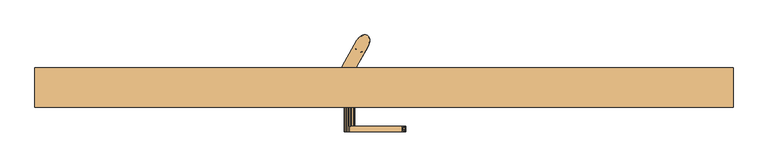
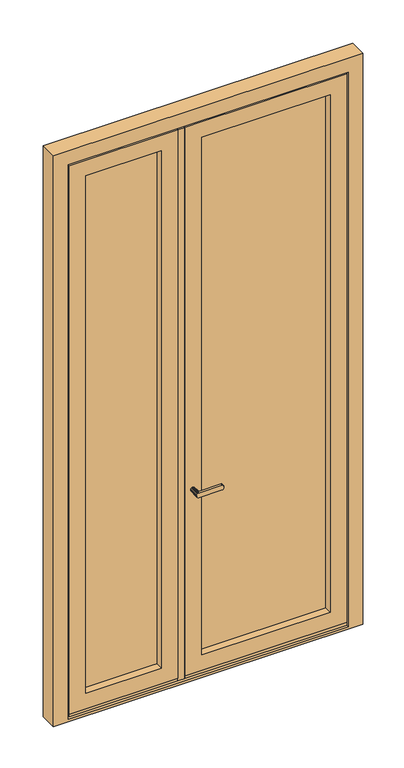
"""IFC4 building model written with IfcOpenShell, lengths in millimetres: door geometry, RDC Tierce."""

import ifcopenshell
import ifcopenshell.guid

model = None  # the IFC model being written
_history = None  # IfcOwnerHistory: only IFC2X3 demands one
_inside = {}  # id of a spatial element -> (the spatial element, [elements in it])
_under = {}  # id of a project, library or spatial element -> (it, [spatial elements below it])
_declared = {}  # id of a project -> (the project, [libraries it declares])
_typed = {}  # id of a type object -> (the type object, [elements of that type])
_made_of = {}  # id of a material, layer set ... -> (it, [elements and type objects made of it])


def new_model(schema):
    """Start an empty IFC model of exactly this schema.

    Asked for "IFC4X3", IfcOpenShell would pick the latest addendum, in which some entities
    have other attributes; the version numbers below select the first issue.
    IFC2X3 requires an IfcOwnerHistory on every rooted entity: one is made here for all.
    """
    global model, _history
    if schema == "IFC4X3":
        model = ifcopenshell.file(schema_version=(4, 3, 0, 0))
    else:
        model = ifcopenshell.file(schema=schema)
    _inside.clear()
    _under.clear()
    _declared.clear()
    _typed.clear()
    _made_of.clear()
    _history = None
    if model.schema == "IFC2X3":
        org = make("IfcOrganization", Name="unknown")
        user = make(
            "IfcPersonAndOrganization",
            ThePerson=make("IfcPerson", FamilyName="unknown"),
            TheOrganization=org,
        )
        app = make(
            "IfcApplication",
            ApplicationDeveloper=org,
            Version="unknown",
            ApplicationFullName="unknown",
            ApplicationIdentifier="unknown",
        )
        _history = make(
            "IfcOwnerHistory",
            OwningUser=user,
            OwningApplication=app,
            ChangeAction="ADDED",
            CreationDate=0,
        )
    return model


def make(cls, **values):
    """One entity of the class cls with the attributes given. An attribute that is None is left unset."""
    return model.create_entity(
        cls, **{name: value for name, value in values.items() if value is not None}
    )


def rooted(cls, **values):
    """An entity with a GlobalId (a new one), such as an element, a storey or a relation."""
    return make(cls, GlobalId=ifcopenshell.guid.new(), OwnerHistory=_history, **values)


def si_unit(unit_type, name, prefix=None):
    """IfcSIUnit, for example si_unit("LENGTHUNIT", "METRE", prefix="MILLI")."""
    return make("IfcSIUnit", UnitType=unit_type, Prefix=prefix, Name=name)


def assignment(units):
    """IfcUnitAssignment: the units of a project."""
    return None if units is None else make("IfcUnitAssignment", Units=units)


def point(xyz):
    """IfcCartesianPoint."""
    return None if xyz is None else make("IfcCartesianPoint", Coordinates=xyz)


def direction(xyz):
    """IfcDirection."""
    return None if xyz is None else make("IfcDirection", DirectionRatios=xyz)


def frame(location, z_axis=None, x_axis=None):
    """IfcAxis2Placement3D, a coordinate frame: its origin and axes. An axis left out is left unset."""
    return make(
        "IfcAxis2Placement3D",
        Location=point(location),
        Axis=direction(z_axis),
        RefDirection=direction(x_axis),
    )


def origin():
    """The frame at (0, 0, 0) with its axes left unset."""
    return frame((0.0, 0.0, 0.0))


def place(relative_to, where):
    """IfcLocalPlacement: puts the frame where relative to a parent placement (None: the world)."""
    return make(
        "IfcLocalPlacement", PlacementRelTo=relative_to, RelativePlacement=where
    )


def context(
    kind, dimensions, precision=None, world=None, true_north=None, identifier=None
):
    """IfcGeometricRepresentationContext, for example the 3D "Model" context."""
    return make(
        "IfcGeometricRepresentationContext",
        ContextIdentifier=identifier,
        ContextType=kind,
        CoordinateSpaceDimension=dimensions,
        Precision=precision,
        WorldCoordinateSystem=world,
        TrueNorth=true_north,
    )


def project(units=None, contexts=None):
    """IfcProject with its units and contexts."""
    return rooted(
        "IfcProject",
        Name="project",
        RepresentationContexts=contexts,
        UnitsInContext=assignment(units),
    )


def spatial(cls, under=None, at=None, **own):
    """A site, building, storey or space (cls), placed at a placement, below another one or the project."""
    s = rooted(cls, ObjectPlacement=at, **own)
    if under is not None:
        _under.setdefault(under.id(), (under, []))[1].append(s)
    return s


def polyline(points):
    """IfcPolyline through the points."""
    return make("IfcPolyline", Points=[point(p) for p in points])


def outline(outer, holes=None, kind="AREA"):
    """IfcArbitraryClosedProfileDef: a profile drawn as a closed curve; with holes, ...WithVoids."""
    if holes is None:
        return make("IfcArbitraryClosedProfileDef", ProfileType=kind, OuterCurve=outer)
    return make(
        "IfcArbitraryProfileDefWithVoids",
        ProfileType=kind,
        OuterCurve=outer,
        InnerCurves=holes,
    )


def extrude(swept, where, along, depth):
    """IfcExtrudedAreaSolid: the profile swept, set in the frame where, extruded along a direction by depth."""
    return make(
        "IfcExtrudedAreaSolid",
        SweptArea=swept,
        Position=where,
        ExtrudedDirection=direction(along),
        Depth=depth,
    )


def faces_of(points, faces, orient=None, outer=None):
    """IfcFace entities. A face is a list of loops; a loop is a list of indices into points, from 0.

    orient and outer hold one flag for each loop. By default every Orientation is true, the
    first loop of a face is its IfcFaceOuterBound and the others are IfcFaceBound.
    """
    made = []
    for i, loops in enumerate(faces):
        bounds = []
        for j, loop in enumerate(loops):
            is_outer = j == 0 if outer is None else outer[i][j]
            bounds.append(
                make(
                    "IfcFaceOuterBound" if is_outer else "IfcFaceBound",
                    Bound=make("IfcPolyLoop", Polygon=[points[k] for k in loop]),
                    Orientation=True if orient is None else orient[i][j],
                )
            )
        made.append(make("IfcFace", Bounds=bounds))
    return made


def faceted_brep(points, faces, orient=None, outer=None, voids=None):
    """IfcFacetedBrep: a solid bounded by flat faces; with voids (closed shells), ...WithVoids."""
    shared = [point(p) for p in points]
    hull = make("IfcClosedShell", CfsFaces=faces_of(shared, faces, orient, outer))
    if voids is None:
        return make("IfcFacetedBrep", Outer=hull)
    return make(
        "IfcFacetedBrepWithVoids",
        Outer=hull,
        Voids=[
            make(cls, CfsFaces=faces_of(shared, fs, o, b)) for cls, fs, o, b in voids
        ],
    )


def shape(context_of_items, identifier, shape_type, items):
    """IfcShapeRepresentation: the items that make up one representation, for example the "Body"."""
    return make(
        "IfcShapeRepresentation",
        ContextOfItems=context_of_items,
        RepresentationIdentifier=identifier,
        RepresentationType=shape_type,
        Items=items,
    )


def source(mapping_origin, context_of_items, identifier, shape_type, items):
    """IfcRepresentationMap: a shape defined once, which mapped items show again and again."""
    return make(
        "IfcRepresentationMap",
        MappingOrigin=mapping_origin,
        MappedRepresentation=shape(context_of_items, identifier, shape_type, items),
    )


def transform(
    local_origin,
    x_axis=None,
    y_axis=None,
    z_axis=None,
    scale=None,
    scale2=None,
    scale3=None,
    uniform=True,
):
    """IfcCartesianTransformationOperator3D, or its non-uniform kind. x_axis, y_axis, z_axis: its Axis1, 2, 3."""
    if uniform:
        return make(
            "IfcCartesianTransformationOperator3D",
            Axis1=direction(x_axis),
            Axis2=direction(y_axis),
            LocalOrigin=point(local_origin),
            Scale=scale,
            Axis3=direction(z_axis),
        )
    return make(
        "IfcCartesianTransformationOperator3DnonUniform",
        Axis1=direction(x_axis),
        Axis2=direction(y_axis),
        LocalOrigin=point(local_origin),
        Scale=scale,
        Axis3=direction(z_axis),
        Scale2=scale2,
        Scale3=scale3,
    )


def mapped(mapping_source, mapping_target):
    """IfcMappedItem: shows the shape of a source again, moved by a transform."""
    return make(
        "IfcMappedItem", MappingSource=mapping_source, MappingTarget=mapping_target
    )


def made_of(thing, what):
    """Note that an element or type object is made of a material, layer set ...; save() writes the relation."""
    if what is not None:
        _made_of.setdefault(what.id(), (what, []))[1].append(thing)
    return thing


def element(
    cls,
    number,
    at=None,
    inside=None,
    cuts=None,
    type_object=None,
    material=None,
    context=None,
    identifier="Body",
    shape_type=None,
    held_by="IfcProductDefinitionShape",
    body=None,
    shapes=None,
    **own,
):
    """One element of the class cls, such as IfcWall. Its Tag is "e" and its number.

    at: its placement. inside: the storey or other place that contains it. cuts: it is an
    opening in that element (IfcRelVoidsElement). A single representation is given by context,
    identifier, shape_type and body (its items); several are given by shapes. held_by: the class
    of the entity that holds the representations. save() writes the other relations.
    """
    e = rooted(cls, Tag="e%d" % number, ObjectPlacement=at, **own)
    if body is not None:
        shapes = [shape(context, identifier, shape_type, body)]
    if shapes is not None:
        e.Representation = make(held_by, Representations=shapes)
    if inside is not None:
        _inside.setdefault(inside.id(), (inside, []))[1].append(e)
    if cuts is not None:
        rooted(
            "IfcRelVoidsElement", RelatingBuildingElement=cuts, RelatedOpeningElement=e
        )
    if type_object is not None:
        _typed.setdefault(type_object.id(), (type_object, []))[1].append(e)
    return made_of(e, material)


def aggregate(whole, parts):
    """IfcRelAggregates: a whole, such as a stair, and the parts it consists of."""
    return rooted("IfcRelAggregates", RelatingObject=whole, RelatedObjects=parts)


def save(model, path):
    """Write the relations noted so far, then the file.

    IfcRelAggregates (storeys below a building ...), IfcRelContainedInSpatialStructure (elements
    in a storey), IfcRelDefinesByType, IfcRelAssociatesMaterial and IfcRelDeclares: one each for
    every whole, place, type object, material and project.
    """
    for whole, parts in _under.values():
        aggregate(whole, parts)
    for where, things in _inside.values():
        rooted(
            "IfcRelContainedInSpatialStructure",
            RelatedElements=things,
            RelatingStructure=where,
        )
    for kind, things in _typed.values():
        rooted("IfcRelDefinesByType", RelatedObjects=things, RelatingType=kind)
    for what, things in _made_of.values():
        rooted("IfcRelAssociatesMaterial", RelatedObjects=things, RelatingMaterial=what)
    for by, libraries in _declared.values():
        rooted("IfcRelDeclares", RelatingContext=by, RelatedDefinitions=libraries)
    model.write(path)


def door_cee4cb2a(model_context):
    return source(origin(), model_context, "Body", "SolidModel", [
        faceted_brep([(739.0136755, -13.0, 243.5), (739.0136755, -9.0, 243.5), (705.1014746, -9.0, 243.5), (705.1014746, -13.0, 243.5), (739.0136755, -9.0, 213.5), (705.1014746, -9.0, 213.5), (739.0136755, -13.0, 209.5), (739.0136755, -9.0, 209.5), (705.1014746, -13.0, 209.5), (705.1014746, -9.0, 209.5), (765.3965699, 59.5301271, 213.5), (762.837333, 61.6325794, 213.5), (759.7369376, 62.7977182, 213.5), (756.2508505, 62.9671186, 213.5), (752.5538788, 62.1322861, 213.5), (748.8314041, 60.3350828, 213.5), (745.2700867, 57.6656279, 213.5), (742.0485062, 54.2577791, 213.5), (739.3282059, 50.2824201, 213.5), (764.7623607, 35.5980002, 213.5), (766.8449742, 39.9415279, 213.5), (768.1854694, 44.4354221, 213.5), (768.7166281, 48.8543403, 213.5), (768.411816, 52.9766994, 213.5), (767.2863175, 56.5957871, 213.5), (739.3282059, 50.2824201, 209.5), (742.0485062, 54.2577791, 209.5), (745.2700867, 57.6656279, 209.5), (748.8314041, 60.3350828, 209.5), (752.5538788, 62.1322861, 209.5), (756.2508505, 62.9671186, 209.5), (759.7369376, 62.7977182, 209.5), (762.837333, 61.6325794, 209.5), (765.3965699, 59.5301271, 209.5), (767.2863175, 56.5957871, 209.5), (768.411816, 52.9766994, 209.5), (768.7166281, 48.8543403, 209.5), (768.1854694, 44.4354221, 209.5), (766.8449742, 39.9415279, 209.5), (764.7623607, 35.5980002, 209.5), (739.3282059, 50.2824201, 211.9099144), (764.7623607, 35.5980002, 211.0900849), (766.431904, 58.1586471, 211.5), (754.4172803, 62.6737832, 211.5), (768.7021328, 48.4468941, 211.5)], [[[0, 1, 2, 3]], [[4, 5, 2, 1]], [[6, 7, 4, 1, 0]], [[8, 6, 0, 3]], [[9, 8, 3, 2, 5]], [[10, 11, 12, 13, 14, 15, 16, 17, 18, 5, 4, 19, 20, 21, 22, 23, 24]], [[6, 8, 9, 25, 26, 27, 28, 29, 30, 31, 32, 33, 34, 35, 36, 37, 38, 39, 7]], [[9, 5, 18, 40, 25]], [[7, 39, 41, 19, 4]], [[40, 18, 17]], [[26, 25, 40]], [[24, 42, 10]], [[43, 27, 40]], [[40, 27, 26]], [[43, 30, 29]], [[15, 43, 16]], [[13, 43, 14]], [[32, 31, 43]], [[41, 39, 38]], [[20, 19, 41]], [[28, 43, 29]], [[17, 16, 40]], [[31, 30, 43]], [[35, 34, 42]], [[28, 27, 43]], [[20, 41, 44]], [[15, 14, 43]], [[13, 12, 43]], [[40, 16, 43]], [[11, 43, 12]], [[32, 43, 42]], [[34, 33, 42]], [[35, 44, 36]], [[38, 37, 41]], [[37, 44, 41]], [[36, 44, 37]], [[44, 21, 20]], [[42, 43, 11]], [[32, 42, 33]], [[42, 11, 10]], [[23, 42, 24]], [[44, 42, 23]], [[35, 42, 44]], [[23, 22, 44]], [[22, 21, 44]]]),
        faceted_brep([(713.5803329, -103.0, 1208.4772421), (716.0632597, -103.0, 1210.3824588), (718.9546891, -103.0, 1211.5801281), (722.0575751, -103.0, 1211.9886308), (725.160461, -103.0, 1211.5801281), (728.0518905, -103.0, 1210.3824588), (730.5348172, -103.0, 1208.4772421), (732.4400339, -103.0, 1205.9943154), (733.6377032, -103.0, 1203.102886), (734.0462059, -103.0, 1200.0), (733.6377032, -103.0, 1196.897114), (732.4400339, -103.0, 1194.0056846), (730.5348172, -103.0, 1191.5227579), (728.0518905, -103.0, 1189.6175412), (725.160461, -103.0, 1188.4198719), (722.0575751, -103.0, 1188.0113692), (718.9546891, -103.0, 1188.4198719), (716.0632597, -103.0, 1189.6175412), (713.5803329, -103.0, 1191.5227579), (711.6751162, -103.0, 1194.0056846), (710.4774469, -103.0, 1196.897114), (710.0689443, -103.0, 1200.0), (710.4774469, -103.0, 1203.102886), (711.6751162, -103.0, 1205.9943154), (725.160461, -146.4998825, 1188.4198719), (722.0575751, -146.4998825, 1188.0113692), (728.0518905, -146.4998825, 1189.6175412), (732.4400339, -146.4998825, 1194.0056846), (730.5348172, -146.4998825, 1191.5227579), (733.6377032, -146.4998825, 1196.897114), (734.0462059, -146.4998825, 1200.0), (733.6377032, -146.4998825, 1203.102886), (732.4400339, -146.4998825, 1205.9943154), (728.0518905, -146.4998825, 1210.3824588), (730.5348172, -146.4998825, 1208.4772421), (725.160461, -146.4998825, 1211.5801281), (722.0575751, -146.4998825, 1211.9886308), (718.9546891, -158.9999695, 1211.5801281), (722.0575751, -158.9999695, 1211.9886308), (716.0632597, -158.9999695, 1210.3824588), (711.6751162, -158.9999695, 1205.9943154), (713.5803329, -158.9999695, 1208.4772421), (710.4774469, -158.9999695, 1203.102886), (710.0689443, -158.9999695, 1200.0), (710.4774469, -158.9999695, 1196.897114), (711.6751162, -158.9999695, 1194.0056846), (716.0632597, -158.9999695, 1189.6175412), (713.5803329, -158.9999695, 1191.5227579), (718.9546891, -158.9999695, 1188.4198719), (722.0575751, -158.9999695, 1188.0113692), (843.7193677, -158.9999695, 1188.0113692), (845.2615722, -158.9999695, 1188.2417274), (846.7445106, -158.9999695, 1188.9239494), (848.1111945, -158.9999695, 1190.0318178), (849.309103, -158.9999695, 1191.5227579), (850.2922011, -158.9999695, 1193.3394736), (851.0227088, -158.9999695, 1195.4121496), (851.4725533, -158.9999695, 1197.6611342), (851.6244472, -158.9999695, 1200.0), (851.4725533, -158.9999695, 1202.3388658), (851.0227088, -158.9999695, 1204.5878504), (850.2922011, -158.9999695, 1206.6605264), (849.309103, -158.9999695, 1208.4772421), (848.1111945, -158.9999695, 1209.9681822), (846.7445106, -158.9999695, 1211.0760506), (845.2615722, -158.9999695, 1211.7582726), (843.7193677, -158.9999695, 1211.9886308), (851.0227088, -146.4998825, 1195.4121496), (850.2922011, -146.4998825, 1193.3394736), (849.309103, -146.4998825, 1191.5227579), (848.1111945, -146.4998825, 1190.0318178), (846.7445106, -146.4998825, 1188.9239494), (845.2615722, -146.4998825, 1188.2417274), (843.7193677, -146.4998825, 1188.0113692), (843.7193677, -146.4998825, 1211.9886308), (845.2615722, -146.4998825, 1211.7582726), (846.7445106, -146.4998825, 1211.0760506), (848.1111945, -146.4998825, 1209.9681822), (849.309103, -146.4998825, 1208.4772421), (850.2922011, -146.4998825, 1206.6605264), (851.0227088, -146.4998825, 1204.5878504), (851.4725533, -146.4998825, 1202.3388658), (851.6244472, -146.4998825, 1200.0), (851.4725533, -146.4998825, 1197.6611342), (843.7193677, -151.9243401, 1188.0113692), (847.4457963, -152.7499239, 1189.4269715), (849.8300768, -152.7499257, 1192.3944932), (851.2840571, -152.749926, 1196.5198842), (850.6910254, -152.749926, 1205.6514014), (851.586382, -152.7499259, 1201.1750915), (846.0140911, -152.749926, 1211.4724044), (848.734297, -152.749926, 1209.2673369), (843.7193677, -152.749926, 1211.9886308)], [[[0, 1, 2, 3, 4, 5, 6, 7, 8, 9, 10, 11, 12, 13, 14, 15, 16, 17, 18, 19, 20, 21, 22, 23]], [[14, 24, 25, 15]], [[13, 26, 24, 14]], [[27, 28, 12, 11]], [[13, 12, 28, 26]], [[29, 27, 11, 10]], [[30, 29, 10, 9]], [[8, 31, 30, 9]], [[7, 32, 31, 8]], [[33, 34, 6, 5]], [[7, 6, 34, 32]], [[35, 33, 5, 4]], [[36, 35, 4, 3]], [[2, 37, 38, 36, 3]], [[1, 39, 37, 2]], [[23, 40, 41, 0]], [[1, 0, 41, 39]], [[22, 42, 40, 23]], [[21, 43, 42, 22]], [[20, 44, 43, 21]], [[19, 45, 44, 20]], [[17, 46, 47, 18]], [[19, 18, 47, 45]], [[16, 48, 46, 17]], [[25, 49, 48, 16, 15]], [[45, 47, 46, 48, 49, 50, 51, 52, 53, 54, 55, 56, 57, 58, 59, 60, 61, 62, 63, 64, 65, 66, 38, 37, 39, 41, 40, 42, 43, 44]], [[67, 68, 69, 70, 71, 72, 73, 25, 24, 26, 28, 27, 29, 30, 31, 32, 34, 33, 35, 36, 74, 75, 76, 77, 78, 79, 80, 81, 82, 83]], [[49, 25, 73, 84, 50]], [[85, 52, 51]], [[53, 85, 86]], [[67, 87, 68]], [[69, 86, 70]], [[80, 88, 81]], [[72, 85, 84]], [[57, 56, 87]], [[60, 59, 89]], [[86, 87, 56]], [[76, 90, 91, 77]], [[86, 55, 54]], [[79, 78, 91, 88]], [[58, 87, 89]], [[70, 85, 71]], [[84, 73, 72]], [[50, 84, 51]], [[85, 72, 71]], [[58, 57, 87]], [[52, 85, 53]], [[86, 56, 55]], [[86, 54, 53]], [[68, 86, 69]], [[86, 85, 70]], [[74, 92, 75]], [[92, 66, 65]], [[62, 61, 88, 91]], [[87, 86, 68]], [[85, 51, 84]], [[87, 67, 83]], [[91, 90, 64, 63]], [[89, 87, 83]], [[61, 60, 88]], [[89, 88, 60]], [[90, 65, 64]], [[63, 62, 91]], [[89, 83, 82]], [[81, 89, 82]], [[88, 89, 81]], [[79, 88, 80]], [[90, 92, 65]], [[78, 77, 91]], [[75, 90, 76]], [[75, 92, 90]], [[59, 58, 89]], [[38, 66, 92, 74, 36]]]),
        faceted_brep([(767.2863182, 56.5957857, 3173.5), (765.396571, 59.5301259, 3173.5), (762.8373346, 61.6325784, 3173.5), (759.7369397, 62.7977178, 3173.5), (756.2508532, 62.9671188, 3173.5), (752.5538818, 62.1322872, 3173.5), (748.8314073, 60.3350848, 3173.5), (745.27009, 57.6656309, 3173.5), (742.0485093, 54.257783, 3173.5), (739.3282086, 50.2824248, 3173.5), (737.2455952, 45.9388975, 3173.5), (735.9051001, 41.4450036, 3173.5), (735.3739411, 37.0260857, 3173.5), (735.678753, 32.9037268, 3173.5), (736.8042511, 29.2846393, 3173.5), (738.6939983, 26.3502991, 3173.5), (741.2532347, 24.2478466, 3173.5), (744.3536295, 23.0827073, 3173.5), (747.8397161, 22.9133062, 3173.5), (751.5366874, 23.7481378, 3173.5), (755.259162, 25.5453402, 3173.5), (758.8204792, 28.2147941, 3173.5), (762.04206, 31.622642, 3173.5), (764.7623607, 35.5980002, 3173.5), (766.8449741, 39.9415275, 3173.5), (768.1854692, 44.4354214, 3173.5), (768.7166281, 48.8543393, 3173.5), (768.4118163, 52.9766982, 3173.5), (744.3536295, 23.0827073, 213.5), (741.2532347, 24.2478466, 213.5), (738.6939983, 26.3502991, 213.5), (736.8042511, 29.2846393, 213.5), (735.678753, 32.9037268, 213.5), (735.3739411, 37.0260857, 213.5), (735.9051001, 41.4450036, 213.5), (737.2455952, 45.9388975, 213.5), (739.3282086, 50.2824248, 213.5), (742.0485093, 54.257783, 213.5), (745.27009, 57.6656309, 213.5), (748.8314073, 60.3350848, 213.5), (752.5538818, 62.1322872, 213.5), (756.2508532, 62.9671188, 213.5), (759.7369397, 62.7977178, 213.5), (762.8373346, 61.6325784, 213.5), (765.396571, 59.5301259, 213.5), (767.2863182, 56.5957857, 213.5), (768.4118163, 52.9766982, 213.5), (768.7166281, 48.8543393, 213.5), (768.1854692, 44.4354214, 213.5), (766.8449741, 39.9415275, 213.5), (764.7623607, 35.5980002, 213.5), (762.04206, 31.622642, 213.5), (758.8204792, 28.2147941, 213.5), (755.259162, 25.5453402, 213.5), (751.5366874, 23.7481378, 213.5), (747.8397161, 22.9133062, 213.5), (762.6076192, 61.7611995, 3109.7202739), (767.9490676, 54.8611962, 306.4622832), (764.7623607, 35.5980002, 305.882384), (754.4172821, 62.6737836, 3080.5377144), (754.4172807, 62.6737832, 297.5878259), (761.345617, 62.3371112, 368.3639702), (749.3325305, 60.633364, 369.6983238), (755.7955087, 62.9171769, 447.5991387), (749.9888265, 60.9970291, 1923.1622134), (761.9052814, 62.1075509, 1878.9479538), (750.5322638, 61.2753443, 1829.1061855), (767.4729902, 56.1711125, 2941.5941552), (764.1933372, 60.6929778, 3018.6360152), (768.7243843, 49.4374691, 3017.3016839), (764.7623607, 35.5980002, 3081.117616), (739.3282086, 50.2824248, 3081.1176142), (739.3282086, 50.2824248, 305.8823858), (751.9377359, 61.9007366, 2991.9159098), (764.7623607, 35.5980002, 398.264768), (768.5193608, 52.3273204, 395.0841039), (763.0635818, 61.4979492, 277.27972), (751.6577498, 61.7869455, 1361.207705), (763.2779054, 61.3627966, 1415.6471907), (764.0814221, 60.7836018, 1319.9077775), (761.0079882, 62.4572952, 528.0009637), (765.9003482, 58.9165369, 460.8307156), (750.391935, 61.2054407, 2664.1031244), (739.3282086, 50.2824248, 2710.4119208), (750.4048255, 61.2119189, 2756.8613183), (767.9490669, 54.8611986, 3089.4121677), (762.9011673, 61.5954092, 1600.8824188), (768.7127394, 50.1422464, 1651.9272043), (768.6721179, 50.9196575, 1554.573611), (739.3282086, 50.2824248, 2988.7352283), (750.818318, 61.4136252, 2849.455968), (739.3282086, 50.2824248, 2803.0295332), (739.3282086, 50.2824248, 2803.9704641), (739.3282086, 50.2824248, 2895.8823837), (761.3770315, 62.3252466, 769.1927828), (768.6891813, 50.6570795, 813.9855457), (768.7083973, 48.5987754, 721.6031625), (750.5170644, 61.2678387, 2570.094555), (762.3834102, 61.8792339, 2617.7675376), (768.6999402, 50.4557225, 2295.5145235), (763.5214499, 61.1997646, 2341.8233312), (768.6999402, 50.4557224, 2388.1321376), (762.3834101, 61.879234, 2710.4119319), (764.7623607, 35.5980002, 860.1766878), (768.7158011, 50.04303, 900.9287605), (764.7623607, 35.5980002, 952.5590718), (764.7623607, 35.5980002, 2249.2056961), (768.6783097, 50.8303552, 2201.0537221), (763.0895273, 61.4819893, 1788.9182175), (764.0023082, 60.8461042, 1694.8280712), (751.5644843, 61.7478511, 1732.6163357), (762.7732286, 61.6692748, 2525.1767042), (768.7040005, 50.3680714, 2573.0145176), (768.6712065, 50.9323319, 2480.6321356), (762.1429526, 61.9979308, 1134.754917), (750.1352768, 61.0740541, 1093.585659), (750.4860851, 61.2524913, 1183.5150777), (764.7623607, 35.5980002, 1600.882384), (764.7623607, 35.5980002, 1599.2357556), (764.7623607, 35.5980002, 1508.264768), (768.6901156, 50.6409754, 1461.9559969), (768.6066573, 51.6447667, 1925.0440673), (768.6899461, 50.6439126, 1832.4264532), (768.6359352, 51.3567772, 2664.0897353), (764.7623607, 35.5980002, 2434.4409282), (764.7623607, 35.5980002, 2432.5590722), (764.7623607, 35.5980002, 2341.8233122), (751.5241038, 61.7307401, 2384.8851606), (762.8982406, 61.5971273, 2433.4275348), (761.7347977, 62.1816353, 1969.471021), (749.5660388, 60.7662363, 1645.4269877), (739.3282086, 50.2824248, 1969.4709989), (750.1922215, 61.1036002, 2017.9320828), (759.259954, 62.8834207, 2930.7084554), (764.2960739, 60.6074467, 2864.0921725), (739.3282086, 50.2824248, 1599.2357643), (739.3282086, 50.2824248, 1600.882384), (739.3282086, 50.2824248, 1691.6181502), (750.6486231, 61.3322747, 1457.4592045), (751.8226843, 61.854626, 1272.1664524), (739.3282086, 50.2824248, 1229.7062326), (739.3282086, 50.2824248, 1230.4119199), (739.3282086, 50.2824248, 1322.0886126), (762.8715145, 61.6127544, 1224.4782647), (768.6887995, 50.6635968, 1184.1031546), (768.7168176, 50.0061998, 1739.8088391), (764.7623607, 35.5980002, 1786.117616), (764.7623607, 35.5980002, 1784.2357596), (764.7623607, 35.5980002, 1693.5), (739.3282086, 50.2824248, 1876.8533807), (739.3282086, 50.2824248, 1878.735232), (750.8942741, 61.4493953, 2476.0712384), (763.4583255, 61.2430151, 2250.0419288), (739.3282086, 50.2824248, 2339.9414598), (739.3282086, 50.2824248, 2341.8233122), (739.3282086, 50.2824248, 2432.5590722), (764.7623607, 35.5980002, 2711.5880801), (768.613522, 51.5809697, 2760.2029636), (762.809346, 61.6486774, 1508.2251806), (750.415151, 61.2170997, 2201.0150551), (762.7719099, 61.6700231, 2156.5881032), (750.3894031, 61.2041669, 2108.3974412), (762.4419914, 61.8490917, 2062.9662927), (768.6336491, 51.3809152, 2106.5480553), (768.5262391, 52.2800512, 2015.8333542), (764.7623607, 35.5980002, 767.7943039), (749.9025409, 60.9509461, 1008.1234025), (739.3282086, 50.2824248, 1044.9414609), (768.6607117, 47.7531606, 461.1498017), (764.7623607, 35.5980002, 490.6471519), (764.7623607, 35.5980002, 583.0295359), (768.6495672, 51.2055472, 536.8383937), (768.7000702, 50.4530358, 627.5817946), (764.9179633, 60.0377675, 689.6168276), (755.7346638, 62.9093372, 619.4560475), (751.1158106, 61.5514578, 713.3140472), (764.7623607, 35.5980002, 1137.7943039), (768.6444329, 51.2640699, 1085.3241351), (768.7204362, 49.8487196, 1276.7207687), (745.4109698, 57.7909707, 444.4560006), (739.3282086, 50.2824248, 398.2647717), (739.3282086, 50.2824248, 490.6471575), (739.3282086, 50.2824248, 952.5590751), (749.0184612, 60.4485303, 906.3679313), (739.3282086, 50.2824248, 860.1766892), (764.8027637, 60.1504562, 621.8958332), (764.7623607, 35.5980002, 675.4119199), (762.8373345, 61.6325785, 853.4847613), (750.4063499, 61.2126842, 813.9855493), (748.135121, 59.8904181, 2924.3179136), (739.3282086, 50.2824248, 2896.3528481), (761.351849, 62.3347669, 2788.9717797), (764.7623607, 35.5980002, 2988.735232), (764.7623607, 35.5980002, 2896.3528481), (768.2212125, 44.6084454, 2942.5440454), (739.3282086, 50.2824248, 2617.7943027), (739.3282086, 50.2824248, 2619.2056961), (739.3282086, 50.2824248, 2711.5880801), (739.3282086, 50.2824248, 2434.4409282), (739.3282086, 50.2824248, 2525.1766845), (764.7623607, 35.5980002, 2526.8233122), (764.7623607, 35.5980002, 2525.1766874), (764.7623607, 35.5980002, 2803.9704641), (764.7623607, 35.5980002, 2803.0295332), (751.2260554, 61.6009922, 2293.632669), (739.3282086, 50.2824248, 2154.7062235), (739.3282086, 50.2824248, 2247.3238417), (739.3282086, 50.2824248, 2249.2056961), (764.7623607, 35.5980002, 2619.2056961), (764.7623607, 35.5980002, 2617.7943027), (739.3282086, 50.2824248, 2526.8233122), (764.7623607, 35.5980002, 2710.4119179), (764.7623607, 35.5980002, 2339.941457), (764.7623607, 35.5980002, 2156.5880801), (764.7623607, 35.5980002, 1971.3528481), (764.7623607, 35.5980002, 1969.470996), (764.7623607, 35.5980002, 1878.735232), (764.7623607, 35.5980002, 2063.9704641), (764.7623607, 35.5980002, 2062.0886112), (739.3282086, 50.2824248, 2156.5880801), (739.3282086, 50.2824248, 2062.0886112), (739.3282086, 50.2824248, 2063.9704641), (764.7623607, 35.5980002, 2154.7062265), (764.7623607, 35.5980002, 2247.3238417), (739.3282086, 50.2824248, 1971.3528481), (739.3282086, 50.2824248, 1693.5), (739.3282086, 50.2824248, 1784.2357625), (739.3282086, 50.2824248, 1786.117616), (739.3282086, 50.2824248, 1506.8533785), (750.8007336, 61.4052876, 1553.0446058), (739.3282086, 50.2824248, 1508.264768), (739.3282086, 50.2824248, 1323.0295359), (739.3282086, 50.2824248, 1414.4709926), (739.3282086, 50.2824248, 1137.3238468), (739.3282086, 50.2824248, 1137.7943039), (764.7623607, 35.5980002, 1230.4119199), (764.7623607, 35.5980002, 1229.7062239), (768.7015334, 50.4222865, 1371.4406735), (764.7623607, 35.5980002, 1323.0295359), (764.7623607, 35.5980002, 1322.0886068), (761.5926826, 62.2405737, 1044.9415053), (768.4179117, 52.9435278, 986.3205896), (764.7623607, 35.5980002, 1045.1766878), (760.4145258, 62.6374177, 948.5095776), (764.7623607, 35.5980002, 1876.8533807), (764.7623607, 35.5980002, 1415.6471519), (764.7623607, 35.5980002, 1414.4709898), (764.7623607, 35.5980002, 1506.8533727), (739.3282086, 50.2824248, 1415.6471519), (739.3282086, 50.2824248, 1045.1766878), (739.3282086, 50.2824248, 767.7943034), (739.3282086, 50.2824248, 583.0295375), (739.3282086, 50.2824248, 675.4119175), (745.4326238, 57.8100799, 629.2207827), (764.7623607, 35.5980002, 1691.6181444), (748.4782208, 60.1139705, 536.8383992), (764.7623607, 35.5980002, 1044.9414581), (764.7623607, 35.5980002, 1137.323841), (768.7109119, 48.6679399, 2850.1616636), (764.7623607, 35.5980002, 2895.8823807), (741.48295, 24.1192255, 3109.7202739), (736.1415017, 31.0192288, 306.4622832), (749.6732872, 23.2066414, 3080.5377144), (749.6732886, 23.2066418, 297.5878259), (742.7449522, 23.5433138, 368.3639702), (754.7580387, 25.247061, 369.6983238), (748.2950606, 22.9632481, 447.5991387), (742.3557716, 23.6987897, 1969.471021), (754.1017428, 24.8833959, 1923.1622134), (753.8983478, 24.7768248, 2017.9320828), (736.617579, 29.7093125, 2941.5941552), (739.8972321, 25.1874472, 3018.6360152), (735.366185, 36.4429559, 3017.3016839), (752.1528334, 23.9796884, 2991.9159098), (735.5712085, 33.5531046, 395.0841039), (741.0269875, 24.3824758, 277.27972), (752.4328194, 24.0934795, 1361.207705), (740.8126639, 24.5176284, 1415.6471907), (740.0091472, 25.0968232, 1319.9077775), (743.082581, 23.4231298, 528.0009637), (738.1902211, 26.9638881, 460.8307156), (753.6986342, 24.6749843, 2664.1031244), (753.6857438, 24.6685061, 2756.8613183), (736.1415024, 31.0192264, 3089.4121677), (741.1894019, 24.2850158, 1600.8824188), (735.3778299, 35.7381786, 1651.9272043), (735.4184513, 34.9607675, 1554.573611), (753.2722513, 24.4667998, 2849.455968), (742.7135378, 23.5551785, 769.1927828), (735.401388, 35.2233455, 813.9855457), (735.3821719, 37.2816496, 721.6031625), (753.5735049, 24.6125863, 2570.094555), (741.7071591, 24.0011911, 2617.7675376), (735.3906291, 35.4247025, 2295.5145235), (740.5691194, 24.6806604, 2341.8233312), (735.3906291, 35.4247026, 2388.1321376), (741.7071592, 24.001191, 2710.4119319), (735.3747682, 35.837395, 900.9287605), (735.4122595, 35.0500698, 2201.0537221), (741.0010419, 24.3984357, 1788.9182175), (740.0882611, 25.0343208, 1694.8280712), (752.526085, 24.1325739, 1732.6163357), (741.3173407, 24.2111502, 2525.1767042), (735.3865688, 35.5123536, 2573.0145176), (735.4193628, 34.9480931, 2480.6321356), (741.9476166, 23.8824942, 1134.754917), (753.9552925, 24.8063709, 1093.585659), (753.6044842, 24.6279337, 1183.5150777), (735.4004537, 35.2394496, 1461.9559969), (735.483912, 34.2356583, 1925.0440673), (735.4006231, 35.2365124, 1832.4264532), (742.1852879, 23.7728741, 1878.9479538), (735.454634, 34.5236478, 2664.0897353), (752.5664654, 24.1496849, 2384.8851606), (741.1923287, 24.2832977, 2433.4275348), (753.5583055, 24.6050807, 1829.1061855), (754.5245305, 25.1141887, 1645.4269877), (744.8306153, 22.9970043, 2930.7084554), (739.7944954, 25.2729783, 2864.0921725), (753.4419461, 24.5481503, 1457.4592045), (752.267885, 24.025799, 1272.1664524), (741.2190547, 24.2676706, 1224.4782647), (735.4017697, 35.2168282, 1184.1031546), (735.3737516, 35.8742252, 1739.8088391), (753.1962952, 24.4310297, 2476.0712384), (740.6322438, 24.6374099, 2250.0419288), (735.4770473, 34.2994553, 2760.2029636), (741.2812233, 24.2317476, 1508.2251806), (753.6754183, 24.6633253, 2201.0150551), (741.3186594, 24.2104019, 2156.5881032), (753.7011662, 24.6762581, 2108.3974412), (741.6485778, 24.0313333, 2062.9662927), (735.4569202, 34.4995098, 2106.5480553), (735.5643302, 33.6003738, 2015.8333542), (754.1880284, 24.9294789, 1008.1234025), (735.4298576, 38.1272644, 461.1498017), (735.4410021, 34.6748778, 536.8383937), (735.390499, 35.4273892, 627.5817946), (739.172606, 25.8426575, 689.6168276), (748.3559054, 22.9710878, 619.4560475), (752.9747586, 24.3289672, 713.3140472), (735.4461364, 34.6163551, 1085.3241351), (735.3701331, 36.0317054, 1276.7207687), (758.6795995, 28.0894543, 444.4560006), (755.072108, 25.4318947, 906.3679313), (739.2878055, 25.7299688, 621.8958332), (741.2532348, 24.2478465, 853.4847613), (753.6842194, 24.6677408, 813.9855493), (755.9554483, 25.9900069, 2924.3179136), (742.7387203, 23.5456581, 2788.9717797), (735.8693568, 41.2719797, 2942.5440454), (752.8645139, 24.2794328, 2293.632669), (753.2898357, 24.4751374, 1553.0446058), (735.3890359, 35.4581385, 1371.4406735), (742.4978867, 23.6398513, 1044.9415053), (735.6726575, 32.9368972, 986.3205896), (743.6760435, 23.2430073, 948.5095776), (758.6579455, 28.0703451, 629.2207827), (755.6123485, 25.7664545, 536.8383992), (735.3796574, 37.2124851, 2850.1616636)], [[[0, 1, 2, 3, 4, 5, 6, 7, 8, 9, 10, 11, 12, 13, 14, 15, 16, 17, 18, 19, 20, 21, 22, 23, 24, 25, 26, 27]], [[28, 29, 30, 31, 32, 33, 34, 35, 36, 37, 38, 39, 40, 41, 42, 43, 44, 45, 46, 47, 48, 49, 50, 51, 52, 53, 54, 55]], [[2, 1, 56]], [[57, 58, 48]], [[7, 6, 59]], [[5, 4, 59]], [[38, 60, 39]], [[61, 62, 63]], [[64, 65, 66]], [[67, 68, 69]], [[40, 60, 41]], [[3, 56, 4]], [[24, 23, 70]], [[58, 50, 49]], [[71, 9, 8]], [[37, 36, 72]], [[68, 73, 59]], [[60, 40, 39]], [[74, 58, 75]], [[45, 76, 57]], [[77, 78, 79]], [[71, 8, 7]], [[63, 80, 81]], [[82, 83, 84]], [[25, 85, 26]], [[24, 70, 25]], [[86, 87, 88]], [[75, 58, 57]], [[72, 62, 60]], [[5, 59, 6]], [[89, 71, 73]], [[70, 69, 85]], [[42, 41, 76]], [[46, 57, 47]], [[90, 91, 92, 93]], [[94, 95, 96]], [[43, 42, 76]], [[97, 82, 98]], [[85, 27, 26]], [[99, 100, 101]], [[4, 56, 59]], [[68, 56, 85]], [[98, 82, 102]], [[46, 45, 57]], [[58, 49, 48]], [[76, 41, 60]], [[59, 71, 7]], [[45, 44, 76]], [[56, 1, 0]], [[75, 57, 61]], [[61, 76, 60]], [[27, 85, 0]], [[47, 57, 48]], [[37, 72, 38]], [[103, 104, 105]], [[0, 85, 56]], [[38, 72, 60]], [[73, 71, 59]], [[68, 85, 69]], [[61, 60, 62]], [[25, 70, 85]], [[99, 106, 107]], [[108, 109, 110]], [[111, 112, 113]], [[114, 115, 116]], [[88, 117, 118, 119]], [[88, 119, 120]], [[121, 122, 65]], [[123, 98, 102]], [[101, 124, 125, 126]], [[100, 127, 128]], [[129, 65, 64]], [[109, 86, 130]], [[131, 132, 64]], [[110, 66, 108]], [[133, 67, 134]], [[130, 135, 136, 137]], [[77, 138, 78]], [[139, 140, 141, 142]], [[143, 144, 114]], [[145, 146, 147, 148]], [[64, 149, 150, 131]], [[97, 111, 151]], [[100, 99, 152]], [[127, 153, 154, 155]], [[156, 123, 157]], [[78, 138, 158]], [[159, 160, 161]], [[162, 163, 164]], [[132, 161, 162]], [[103, 165, 95]], [[166, 167, 115]], [[168, 169, 74]], [[170, 171, 172]], [[173, 174, 175]], [[176, 177, 144]], [[144, 143, 178]], [[179, 180, 181]], [[170, 169, 171]], [[182, 183, 184]], [[185, 173, 172]], [[171, 168, 81]], [[186, 172, 96]], [[81, 80, 171]], [[187, 104, 95]], [[173, 175, 94]], [[188, 187, 94]], [[189, 93, 190, 89]], [[84, 90, 191]], [[102, 157, 123]], [[192, 193, 194]], [[91, 90, 84]], [[90, 189, 133]], [[133, 134, 90]], [[82, 195, 196, 83]], [[102, 84, 191]], [[84, 83, 197, 91]], [[97, 195, 82]], [[102, 82, 84]], [[151, 155, 198, 199]], [[97, 151, 199]], [[98, 111, 97]], [[112, 111, 98]], [[113, 200, 201, 124]], [[157, 202, 203, 156]], [[153, 127, 204]], [[151, 111, 128]], [[161, 205, 159]], [[204, 206, 207, 153]], [[152, 159, 204]], [[73, 68, 133]], [[134, 157, 191]], [[112, 208, 209, 200]], [[208, 112, 123]], [[128, 111, 113]], [[97, 199, 210, 195]], [[98, 123, 112]], [[112, 200, 113]], [[123, 156, 211, 208]], [[151, 128, 127]], [[99, 126, 212, 106]], [[155, 151, 127]], [[204, 127, 100]], [[100, 128, 101]], [[101, 113, 124]], [[113, 101, 128]], [[126, 99, 101]], [[107, 152, 99]], [[160, 107, 163]], [[107, 213, 163]], [[100, 152, 204]], [[152, 107, 160]], [[163, 162, 160]], [[121, 214, 215, 216]], [[164, 217, 218, 214]], [[217, 164, 163]], [[65, 129, 121]], [[204, 159, 206]], [[121, 129, 164]], [[159, 205, 219, 206]], [[161, 220, 221, 205]], [[160, 159, 152]], [[220, 161, 132]], [[160, 162, 161]], [[163, 213, 222, 217]], [[107, 106, 223, 213]], [[129, 132, 162]], [[132, 131, 224, 220]], [[66, 149, 64]], [[129, 64, 132]], [[110, 137, 225, 226]], [[66, 110, 226]], [[137, 110, 130]], [[109, 130, 110]], [[65, 108, 66]], [[122, 108, 65]], [[66, 226, 227, 149]], [[228, 229, 138]], [[229, 228, 230, 135]], [[229, 86, 158]], [[77, 142, 231, 232]], [[138, 77, 232]], [[140, 139, 116]], [[79, 139, 77]], [[233, 116, 115]], [[116, 233, 234, 140]], [[143, 116, 139]], [[144, 235, 236, 176]], [[120, 237, 78]], [[178, 235, 144]], [[178, 238, 239, 235]], [[144, 177, 114]], [[240, 177, 241]], [[177, 242, 241]], [[240, 241, 243]], [[243, 104, 187]], [[117, 88, 87]], [[122, 216, 244, 146]], [[122, 145, 108]], [[216, 122, 121]], [[109, 108, 145]], [[86, 88, 158]], [[148, 87, 145]], [[120, 158, 88]], [[229, 158, 138]], [[120, 78, 158]], [[79, 78, 237]], [[120, 245, 237]], [[237, 245, 246, 238]], [[120, 119, 247, 245]], [[178, 79, 237]], [[162, 164, 129]], [[121, 164, 214]], [[138, 232, 248, 228]], [[183, 182, 166]], [[240, 115, 114]], [[115, 167, 249, 233]], [[240, 114, 177]], [[143, 114, 116]], [[115, 240, 166]], [[188, 183, 187]], [[175, 250, 188]], [[184, 188, 250]], [[243, 187, 183]], [[251, 252, 253]], [[185, 172, 171]], [[103, 95, 104]], [[105, 104, 241]], [[94, 187, 95]], [[146, 145, 122]], [[109, 145, 87]], [[86, 109, 87]], [[87, 148, 254, 117]], [[253, 252, 175]], [[255, 253, 174]], [[130, 229, 135]], [[229, 130, 86]], [[143, 139, 79]], [[142, 77, 139]], [[238, 178, 237]], [[143, 79, 178]], [[96, 165, 186]], [[174, 173, 185]], [[186, 170, 172]], [[167, 166, 182]], [[166, 240, 243]], [[241, 242, 256, 105]], [[177, 176, 257, 242]], [[243, 241, 104]], [[181, 251, 255]], [[180, 62, 72]], [[75, 61, 81]], [[62, 179, 63]], [[255, 80, 63]], [[258, 193, 259, 202]], [[192, 69, 70]], [[202, 157, 258]], [[69, 194, 67]], [[258, 134, 67]], [[184, 183, 188]], [[243, 183, 166]], [[188, 94, 175]], [[96, 173, 94]], [[252, 250, 175]], [[63, 81, 61]], [[168, 75, 81]], [[165, 96, 95]], [[173, 96, 172]], [[194, 193, 258]], [[134, 258, 157]], [[67, 133, 68]], [[189, 73, 133]], [[73, 189, 89]], [[93, 189, 90]], [[179, 181, 255]], [[80, 255, 174]], [[75, 168, 74]], [[169, 168, 171]], [[102, 191, 157]], [[134, 191, 90]], [[43, 76, 44]], [[57, 76, 61]], [[2, 56, 3]], [[59, 56, 68]], [[185, 80, 174]], [[80, 185, 171]], [[180, 179, 62]], [[63, 179, 255]], [[192, 194, 69]], [[67, 194, 258]], [[251, 253, 255]], [[174, 253, 175]], [[16, 15, 260]], [[261, 72, 34]], [[21, 20, 262]], [[19, 18, 262]], [[52, 263, 53]], [[264, 265, 266]], [[267, 268, 269]], [[270, 271, 272]], [[54, 263, 55]], [[17, 260, 18]], [[10, 9, 71]], [[72, 36, 35]], [[70, 23, 22]], [[51, 50, 58]], [[271, 273, 262]], [[263, 54, 53]], [[180, 72, 274]], [[31, 275, 261]], [[276, 277, 278]], [[70, 22, 21]], [[266, 279, 280]], [[281, 211, 282]], [[11, 283, 12]], [[10, 71, 11]], [[284, 285, 286]], [[274, 72, 261]], [[58, 265, 263]], [[19, 262, 20]], [[192, 70, 273]], [[71, 272, 283]], [[28, 55, 275]], [[32, 261, 33]], [[287, 203, 202, 259]], [[288, 289, 290]], [[29, 28, 275]], [[291, 281, 292]], [[283, 13, 12]], [[293, 294, 295]], [[18, 260, 262]], [[271, 260, 283]], [[292, 281, 296]], [[32, 31, 261]], [[72, 35, 34]], [[275, 55, 263]], [[262, 70, 21]], [[31, 30, 275]], [[260, 15, 14]], [[274, 261, 264]], [[264, 275, 263]], [[13, 283, 14]], [[33, 261, 34]], [[51, 58, 52]], [[184, 297, 182]], [[14, 283, 260]], [[52, 58, 263]], [[273, 70, 262]], [[271, 283, 272]], [[264, 263, 265]], [[11, 71, 283]], [[293, 207, 298]], [[299, 300, 301]], [[302, 303, 304]], [[305, 306, 307]], [[286, 136, 135, 230]], [[286, 230, 308]], [[309, 310, 311]], [[312, 292, 296]], [[295, 198, 155, 154]], [[294, 313, 314]], [[299, 315, 311]], [[300, 284, 316]], [[215, 269, 268]], [[301, 315, 299]], [[317, 270, 318]], [[316, 118, 117, 254]], [[276, 319, 277]], [[320, 236, 235, 239]], [[321, 322, 305]], [[323, 227, 226, 225]], [[268, 244, 216, 215]], [[291, 302, 324]], [[294, 293, 325]], [[313, 212, 126, 125]], [[197, 312, 326]], [[277, 319, 327]], [[328, 329, 330]], [[331, 332, 333]], [[269, 330, 331]], [[184, 250, 289]], [[334, 256, 306]], [[335, 181, 180]], [[251, 336, 337]], [[338, 339, 340]], [[234, 341, 322]], [[322, 321, 342]], [[343, 74, 169]], [[251, 181, 336]], [[105, 344, 103]], [[345, 338, 337]], [[336, 335, 280]], [[252, 337, 290]], [[280, 279, 336]], [[346, 297, 289]], [[338, 340, 288]], [[347, 346, 288]], [[348, 259, 193, 192]], [[282, 287, 349]], [[296, 326, 312]], [[89, 190, 350]], [[203, 287, 282]], [[287, 348, 317]], [[317, 318, 287]], [[281, 209, 208, 211]], [[296, 282, 349]], [[282, 211, 156, 203]], [[291, 209, 281]], [[296, 281, 282]], [[324, 125, 124, 201]], [[291, 324, 201]], [[292, 302, 291]], [[303, 302, 292]], [[304, 210, 199, 198]], [[326, 92, 91, 197]], [[212, 313, 351]], [[324, 302, 314]], [[330, 222, 328]], [[351, 223, 106, 212]], [[325, 328, 351]], [[273, 271, 317]], [[318, 326, 349]], [[303, 196, 195, 210]], [[196, 303, 312]], [[314, 302, 304]], [[291, 201, 200]], [[292, 312, 303]], [[303, 210, 304]], [[312, 197, 83, 196]], [[324, 314, 313]], [[293, 154, 153, 207]], [[125, 324, 313]], [[351, 313, 294]], [[294, 314, 295]], [[295, 304, 198]], [[304, 295, 314]], [[154, 293, 295]], [[298, 325, 293]], [[329, 298, 332]], [[298, 219, 332]], [[294, 325, 351]], [[325, 298, 329]], [[332, 331, 329]], [[309, 224, 131, 150]], [[333, 221, 220, 224]], [[221, 333, 332]], [[311, 267, 309]], [[351, 328, 223]], [[309, 267, 333]], [[328, 222, 213, 223]], [[330, 218, 217, 222]], [[329, 328, 325]], [[218, 330, 269]], [[329, 331, 330]], [[332, 219, 205, 221]], [[298, 207, 206, 219]], [[267, 269, 331]], [[269, 215, 214, 218]], [[244, 268, 315]], [[268, 267, 311]], [[301, 254, 148, 147]], [[315, 301, 147]], [[254, 301, 316]], [[300, 316, 301]], [[268, 311, 315]], [[310, 299, 311]], [[315, 147, 146, 244]], [[247, 352, 319]], [[352, 247, 119, 118]], [[352, 284, 327]], [[276, 239, 238, 246]], [[319, 276, 246]], [[236, 320, 307]], [[278, 320, 276]], [[257, 307, 306]], [[307, 257, 176, 236]], [[321, 307, 320]], [[322, 141, 140, 234]], [[308, 353, 277]], [[342, 141, 322]], [[342, 231, 142, 141]], [[322, 341, 305]], [[354, 341, 355]], [[341, 249, 355]], [[354, 355, 356]], [[356, 297, 346]], [[136, 286, 285]], [[310, 150, 149, 227]], [[310, 323, 299]], [[150, 310, 309]], [[300, 299, 323]], [[284, 286, 327]], [[225, 285, 323]], [[308, 327, 286]], [[352, 327, 319]], [[308, 277, 327]], [[278, 277, 353]], [[308, 248, 353]], [[353, 248, 232, 231]], [[308, 230, 228, 248]], [[342, 278, 353]], [[331, 333, 267]], [[309, 333, 224]], [[319, 246, 245, 247]], [[344, 105, 334]], [[354, 306, 305]], [[306, 256, 242, 257]], [[354, 305, 341]], [[321, 305, 307]], [[306, 354, 334]], [[347, 344, 346]], [[340, 165, 347]], [[103, 347, 165]], [[356, 346, 344]], [[170, 186, 357]], [[345, 337, 336]], [[184, 289, 297]], [[182, 297, 355]], [[288, 346, 289]], [[227, 323, 310]], [[300, 323, 285]], [[284, 300, 285]], [[285, 225, 137, 136]], [[357, 186, 340]], [[358, 357, 339]], [[316, 352, 118]], [[352, 316, 284]], [[321, 320, 278]], [[239, 276, 320]], [[231, 342, 353]], [[321, 278, 342]], [[290, 250, 252]], [[339, 338, 345]], [[252, 251, 337]], [[256, 334, 105]], [[334, 354, 356]], [[355, 249, 167, 182]], [[341, 234, 233, 249]], [[356, 355, 297]], [[169, 170, 358]], [[74, 265, 58]], [[274, 264, 280]], [[265, 343, 266]], [[358, 279, 266]], [[359, 190, 93, 92]], [[89, 272, 71]], [[92, 326, 359]], [[272, 350, 270]], [[359, 318, 270]], [[103, 344, 347]], [[356, 344, 334]], [[347, 288, 340]], [[290, 338, 288]], [[186, 165, 340]], [[266, 280, 264]], [[335, 274, 280]], [[250, 290, 289]], [[338, 290, 337]], [[350, 190, 359]], [[318, 359, 326]], [[270, 317, 271]], [[348, 273, 317]], [[273, 348, 192]], [[259, 348, 287]], [[343, 169, 358]], [[279, 358, 339]], [[274, 335, 180]], [[181, 335, 336]], [[296, 349, 326]], [[318, 349, 287]], [[29, 275, 30]], [[261, 275, 264]], [[16, 260, 17]], [[262, 260, 271]], [[345, 279, 339]], [[279, 345, 336]], [[74, 343, 265]], [[266, 343, 358]], [[89, 350, 272]], [[270, 350, 359]], [[170, 357, 358]], [[339, 357, 340]], [[291, 200, 209]]]),
        faceted_brep([(168.0000305, -62.0, 3111.9999695), (168.0000305, -103.0, 3111.9999695), (168.0000305, -103.0, 275.0000305), (168.0000305, -62.0, 275.0000305), (83.0, -103.0, 3197.0), (83.0, -103.0, 190.0), (645.0575751, -103.0, 190.0), (645.0575751, -103.0, 3197.0), (560.0575445, -103.0, 3111.9999695), (560.0575445, -103.0, 275.0000305), (560.0575445, -62.0, 275.0000305), (153.0, -62.0, 260.0), (153.0, -62.0, 3127.0), (575.0575751, -62.0, 3127.0), (575.0575751, -62.0, 260.0), (560.0575445, -62.0, 3111.9999695), (153.0, -24.0, 3127.0), (153.0, -24.0, 260.0), (575.0575751, -24.0, 260.0), (575.0575751, -24.0, 3127.0), (170.0, -24.0, 277.0), (170.0, -24.0, 3110.0), (558.0575751, -24.0, 3110.0), (558.0575751, -24.0, 277.0), (170.0, -13.0, 3110.0), (170.0, -13.0, 277.0), (558.0575751, -13.0, 277.0), (51.0, -13.0, 158.0), (51.0, -13.0, 3229.0), (645.0575751, -13.0, 3229.0), (645.0575751, -13.0, 158.0), (558.0575751, -13.0, 3110.0), (51.0, -21.3, 3229.0), (51.0, -21.3, 158.0), (645.0575751, -21.3, 158.0), (645.0575751, -21.3, 178.5), (71.5, -21.3, 178.5), (71.5, -21.3, 3208.5), (645.0575751, -21.3, 3208.5), (645.0575751, -21.3, 3229.0), (71.5, -94.7, 3208.5), (71.5, -94.7, 178.5), (656.5575751, -21.3, 178.5), (656.5575751, -94.7, 178.5), (656.5575751, -94.7, 3208.5), (83.0, -94.7, 190.0), (83.0, -94.7, 3197.0), (645.0575751, -94.7, 3197.0), (645.0575751, -94.7, 190.0), (656.5575751, -21.3, 3208.5)], [[[0, 1, 2, 3]], [[4, 5, 6, 7], [2, 1, 8, 9]], [[3, 2, 9, 10]], [[11, 12, 13, 14], [0, 3, 10, 15]], [[16, 12, 11, 17]], [[17, 11, 14, 18]], [[16, 17, 18, 19], [20, 21, 22, 23]], [[24, 21, 20, 25]], [[25, 20, 23, 26]], [[27, 28, 29, 30], [24, 25, 26, 31]], [[32, 28, 27, 33]], [[33, 27, 30, 34]], [[32, 33, 34, 35, 36, 37, 38, 39]], [[40, 37, 36, 41]], [[41, 36, 35, 42, 43]], [[40, 41, 43, 44], [45, 46, 47, 48]], [[4, 46, 45, 5]], [[5, 45, 48, 6]], [[10, 9, 8, 15]], [[18, 14, 13, 19]], [[26, 23, 22, 31]], [[43, 42, 49, 44]], [[1, 0, 15, 8]], [[12, 16, 19, 13]], [[21, 24, 31, 22]], [[28, 32, 39, 29]], [[37, 40, 44, 49, 38]], [[46, 4, 7, 47]], [[38, 35, 34, 30, 29, 39]], [[35, 38, 49, 42]], [[6, 48, 47, 7]]]),
        faceted_brep([(1527.0575751, -103.0, 3204.0), (1527.0575751, -94.7, 3204.0), (1527.0575751, -94.7, 167.8651688), (1527.0575751, -103.0, 165.0072496), (76.0, -94.7, 3204.0), (76.0, -94.7, 167.8651688), (55.5, -94.7, 167.8651688), (55.5, -94.7, 3224.5), (1547.5575751, -94.7, 3224.5), (1547.5575751, -94.7, 167.8651688), (1547.5575751, -21.3, 3224.5), (1547.5575751, -21.3, 164.3), (1547.5575751, -81.0, 164.3), (1547.5575751, -81.0, 170.0), (1547.5575751, -88.5, 170.0), (1559.0575751, -13.0006635, 150.0), (1559.0575751, -21.3, 150.0), (1559.0575751, -21.3, 3236.0), (1559.0575751, -13.0006635, 3236.0), (1603.0575751, -13.0006635, 150.0), (44.0, -13.0006635, 3236.0), (44.0, -13.0006635, 150.0), (0.0, -13.0006635, 150.0), (0.0, -13.0006635, 3280.0), (1603.0575751, -13.0006635, 3280.0), (76.0, -103.0, 3204.0), (76.0, -103.0, 165.0072496), (44.0, -21.3, 3236.0), (44.0, -21.3, 150.0), (55.5, -21.3, 3224.5), (55.5, -88.5, 170.0), (55.5, -81.0, 170.0), (55.5, -81.0, 164.3), (55.5, -21.3, 164.3), (0.0, -103.0, 3280.0), (1603.0575751, -103.0, 3280.0), (1603.0575751, -103.0, 150.0), (0.0, -103.0, 150.0)], [[[0, 1, 2, 3]], [[1, 4, 5, 6, 7, 8, 9, 2]], [[8, 10, 11, 12, 13, 14, 9]], [[15, 16, 17, 18]], [[19, 15, 18, 20, 21, 22, 23, 24]], [[4, 25, 26, 5]], [[20, 27, 28, 21]], [[29, 7, 6, 30, 31, 32, 33]], [[25, 4, 1, 0]], [[27, 20, 18, 17]], [[23, 34, 35, 24]], [[8, 7, 29, 10]], [[19, 24, 35, 36]], [[34, 23, 22, 37]], [[35, 34, 37, 36], [25, 0, 3, 26]], [[16, 15, 19, 36, 37, 22, 21, 28]], [[14, 30, 6, 5, 26, 3, 2, 9]], [[27, 17, 16, 28], [11, 10, 29, 33]], [[32, 12, 11, 33]], [[12, 32, 31, 13]], [[13, 31, 30, 14]]]),
        faceted_brep([(705.1014746, -13.0, 3143.5), (705.1014746, -9.0, 3143.5), (739.0136755, -9.0, 3143.5), (739.0136755, -13.0, 3143.5), (705.1014746, -9.0, 3173.5), (739.0136755, -9.0, 3173.5), (739.0136755, -9.0, 3177.5), (739.0136755, -13.0, 3177.5), (705.1014746, -13.0, 3177.5), (705.1014746, -9.0, 3177.5), (739.3282086, 50.2824248, 3173.5), (742.0485093, 54.257783, 3173.5), (745.27009, 57.6656309, 3173.5), (748.8314073, 60.3350848, 3173.5), (752.5538818, 62.1322872, 3173.5), (756.2508532, 62.9671188, 3173.5), (759.7369397, 62.7977178, 3173.5), (762.8373346, 61.6325784, 3173.5), (765.396571, 59.5301259, 3173.5), (767.2863182, 56.5957857, 3173.5), (768.4118163, 52.9766982, 3173.5), (768.7166281, 48.8543393, 3173.5), (768.1854692, 44.4354214, 3173.5), (766.8449741, 39.9415275, 3173.5), (764.7623607, 35.5980002, 3173.5), (765.396571, 59.5301259, 3177.5), (762.8373346, 61.6325784, 3177.5), (759.7369397, 62.7977178, 3177.5), (756.2508532, 62.9671188, 3177.5), (752.5538818, 62.1322872, 3177.5), (748.8314073, 60.3350848, 3177.5), (745.27009, 57.6656309, 3177.5), (742.0485093, 54.257783, 3177.5), (739.3282086, 50.2824248, 3177.5), (764.7623607, 35.5980002, 3177.5), (766.8449741, 39.9415275, 3177.5), (768.1854692, 44.4354214, 3177.5), (768.7166281, 48.8543393, 3177.5), (768.4118163, 52.9766982, 3177.5), (767.2863182, 56.5957857, 3177.5), (739.3282086, 50.2824248, 3175.9099144), (764.7623607, 35.5980002, 3175.0900851), (766.4319048, 58.1586458, 3175.5), (754.4172832, 62.6737838, 3175.5), (768.7021327, 48.4468931, 3175.5)], [[[0, 1, 2, 3]], [[2, 1, 4, 5]], [[3, 2, 5, 6, 7]], [[0, 3, 7, 8]], [[1, 0, 8, 9, 4]], [[5, 4, 10, 11, 12, 13, 14, 15, 16, 17, 18, 19, 20, 21, 22, 23, 24]], [[25, 26, 27, 28, 29, 30, 31, 32, 33, 9, 8, 7, 6, 34, 35, 36, 37, 38, 39]], [[4, 9, 33, 40, 10]], [[5, 24, 41, 34, 6]], [[40, 33, 32]], [[11, 10, 40]], [[39, 42, 25]], [[43, 12, 40]], [[40, 12, 11]], [[43, 15, 14]], [[30, 43, 31]], [[28, 43, 29]], [[17, 16, 43]], [[41, 24, 23]], [[35, 34, 41]], [[13, 43, 14]], [[32, 31, 40]], [[16, 15, 43]], [[20, 19, 42]], [[13, 12, 43]], [[35, 41, 44]], [[30, 29, 43]], [[28, 27, 43]], [[40, 31, 43]], [[26, 43, 27]], [[17, 43, 42]], [[19, 18, 42]], [[20, 44, 21]], [[23, 22, 41]], [[22, 44, 41]], [[21, 44, 22]], [[44, 36, 35]], [[42, 43, 26]], [[17, 42, 18]], [[42, 26, 25]], [[38, 42, 39]], [[44, 42, 38]], [[20, 42, 44]], [[38, 37, 44]], [[37, 36, 44]]]),
        extrude(outline(polyline([(677.0575751, -103.0), (645.0575751, -103.0), (645.0575751, -94.7), (677.0575751, -94.7), (677.0575751, -103.0)])), frame((0.0, 0.0, 176.0160203), z_axis=(0.0, 0.0, 1.0), x_axis=(1.0, 0.0, 0.0)), (0.0, 0.0, 1.0), 3020.9839797),
        extrude(outline(polyline([(754.0575751, -24.0), (1450.0575751, -24.0), (1450.0575751, -62.0), (754.0575751, -62.0), (754.0575751, -24.0)])), frame((0.0, 0.0, 260.0), z_axis=(0.0, 0.0, 1.0), x_axis=(1.0, 0.0, 0.0)), (0.0, 0.0, 1.0), 2867.0),
        faceted_brep([(672.5575751, -94.7, 3208.5), (672.5575751, -21.3, 3208.5), (672.5575751, -21.3, 178.5), (672.5575751, -94.7, 178.5), (652.0575751, -21.3, 3229.0), (652.0575751, -21.3, 158.0), (1552.0575751, -21.3, 158.0), (1552.0575751, -21.3, 3229.0), (1531.5575751, -21.3, 3208.5), (1531.5575751, -21.3, 178.5), (1531.5575751, -94.7, 178.5), (1531.5575751, -94.7, 3208.5), (1520.0575751, -94.7, 3197.0), (1520.0575751, -94.7, 190.0), (684.0575751, -94.7, 190.0), (684.0575751, -94.7, 3197.0), (684.0575751, -103.0, 3197.0), (684.0575751, -103.0, 190.0), (1520.0575751, -103.0, 190.0), (1520.0575751, -103.0, 3197.0), (1435.0575445, -103.0, 3111.9999695), (1435.0575445, -103.0, 275.0000305), (769.0576056, -103.0, 275.0000305), (769.0576056, -103.0, 3111.9999695), (769.0576056, -62.0, 3111.9999695), (769.0576056, -62.0, 275.0000305), (1435.0575445, -62.0, 275.0000305), (1450.0575751, -62.0, 3127.0), (1450.0575751, -62.0, 260.0), (754.0575751, -62.0, 260.0), (754.0575751, -62.0, 3127.0), (1435.0575445, -62.0, 3111.9999695), (754.0575751, -24.0, 3127.0), (754.0575751, -24.0, 260.0), (1450.0575751, -24.0, 260.0), (1450.0575751, -24.0, 3127.0), (1433.0575751, -24.0, 3110.0), (1433.0575751, -24.0, 277.0), (771.0575751, -24.0, 277.0), (771.0575751, -24.0, 3110.0), (771.0575751, -13.0, 3110.0), (771.0575751, -13.0, 277.0), (1433.0575751, -13.0, 277.0), (1552.0575751, -13.0, 3229.0), (1552.0575751, -13.0, 158.0), (652.0575751, -13.0, 158.0), (652.0575751, -13.0, 3229.0), (1433.0575751, -13.0, 3110.0)], [[[0, 1, 2, 3]], [[4, 5, 6, 7], [8, 9, 2, 1]], [[3, 2, 9, 10]], [[0, 3, 10, 11], [12, 13, 14, 15]], [[16, 15, 14, 17]], [[17, 14, 13, 18]], [[16, 17, 18, 19], [20, 21, 22, 23]], [[24, 23, 22, 25]], [[25, 22, 21, 26]], [[27, 28, 29, 30], [24, 25, 26, 31]], [[32, 30, 29, 33]], [[33, 29, 28, 34]], [[32, 33, 34, 35], [36, 37, 38, 39]], [[40, 39, 38, 41]], [[41, 38, 37, 42]], [[43, 44, 45, 46], [40, 41, 42, 47]], [[4, 46, 45, 5]], [[5, 45, 44, 6]], [[10, 9, 8, 11]], [[18, 13, 12, 19]], [[26, 21, 20, 31]], [[34, 28, 27, 35]], [[42, 37, 36, 47]], [[6, 44, 43, 7]], [[11, 8, 1, 0]], [[19, 12, 15, 16]], [[31, 20, 23, 24]], [[35, 27, 30, 32]], [[47, 36, 39, 40]], [[7, 43, 46, 4]]]),
        extrude(outline(polyline([(684.0575751, -103.0), (684.0575751, -94.7), (1520.0575751, -94.7), (1520.0575751, -103.0), (684.0575751, -103.0)])), frame((0.0, 0.0, 176.0), z_axis=(0.0, 0.0, 1.0), x_axis=(1.0, 0.0, 0.0)), (0.0, 0.0, 1.0), 14.0),
        extrude(outline(polyline([(83.0, -103.0), (83.0, -94.7), (645.0575751, -94.7), (645.0575751, -103.0), (83.0, -103.0)])), frame((0.0, 0.0, 176.0160203), z_axis=(0.0, 0.0, 1.0), x_axis=(1.0, 0.0, 0.0)), (0.0, 0.0, 1.0), 13.9839797),
        extrude(outline(polyline([(575.0575751, -62.0), (153.0, -62.0), (153.0, -24.0), (575.0575751, -24.0), (575.0575751, -62.0)])), frame((0.0, 0.0, 260.0), z_axis=(0.0, 0.0, 1.0), x_axis=(1.0, 0.0, 0.0)), (0.0, 0.0, 1.0), 2867.0),
    ])


if __name__ == "__main__":
    model = new_model("IFC4")
    model_context = context("Model", 3, world=origin())
    ifc_project = project(units=[si_unit("LENGTHUNIT", "METRE", prefix="MILLI")], contexts=[model_context])
    site = spatial("IfcSite", under=ifc_project)
    building = spatial("IfcBuilding", under=site)
    placement = place(None, origin())
    door_shape = door_cee4cb2a(model_context)
    element("IfcDoor", 1, ObjectType="RDC Tierce", at=placement, inside=building, context=model_context, shape_type="MappedRepresentation", body=[
        mapped(door_shape, transform((0.0, 0.0, 0.0), x_axis=(1.0, 0.0, 0.0), y_axis=(0.0, 1.0, 0.0), z_axis=(0.0, 0.0, 1.0))),
    ])
    save(model, "model.ifc")
